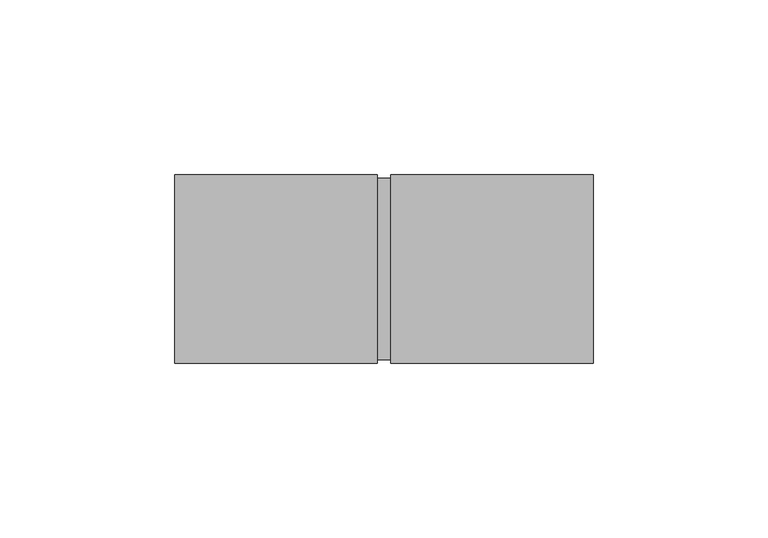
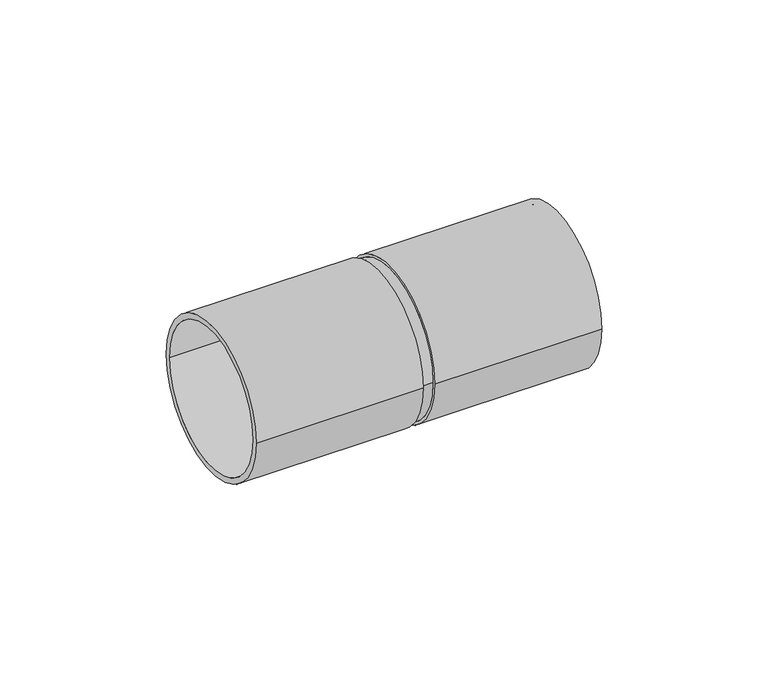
"""IFC4 building model written with IfcOpenShell, lengths in millimetres: cable carrier fitting geometry."""

from ifc_helpers import new_model, si_unit, frame, origin, place, context, project, spatial, polyline, circle_curve, source, transform, mapped, element, save
from ifc_brep_helpers import plane_surface, cylinder_surface, revolved_surface, advanced_brep


def cable_carrier_fitting_d59ab6b8(model_context):
    return source(origin(), model_context, "Body", "AdvancedBrep", [
        advanced_brep(
        [(-60.0, -27.0, 0.0), (-60.0, 27.0, 0.0), (-60.0, -25.0, 0.0), (-60.0, 25.0, 0.0), (-2.0, -27.0, 0.0), (-2.0, 27.0, 0.0), (-2.0, -26.0, 0.0), (-2.0, 26.0, 0.0), (-2.0, 25.0, 0.0), (-2.0, -25.0, 0.0), (2.0, -25.0, 0.0), (2.0, 25.0, 0.0), (2.0, -26.0, 0.0), (2.0, 26.0, 0.0), (2.0, -27.0, 0.0), (2.0, 27.0, 0.0), (60.0, -27.0, 0.0), (60.0, 27.0, 0.0), (60.0, -25.0, 0.0), (60.0, 25.0, 0.0)],
        [
            (0, 1, circle_curve(frame((-60.0, 0.0, 0.0), z_axis=(-1.0, 0.0, 0.0), x_axis=(0.0, 1.0, 0.0)), 27.0)),
            (1, 0, circle_curve(frame((-60.0, 0.0, 0.0), z_axis=(-1.0, 0.0, 0.0), x_axis=(0.0, 1.0, 0.0)), 27.0)),
            (2, 3, circle_curve(frame((-60.0, 0.0, 0.0), z_axis=(1.0, 0.0, 0.0), x_axis=(0.0, 1.0, 0.0)), 25.0)),
            (3, 2, circle_curve(frame((-60.0, 0.0, 0.0), z_axis=(1.0, 0.0, 0.0), x_axis=(0.0, 1.0, 0.0)), 25.0)),
            (4, 5, circle_curve(frame((-2.0, 0.0, 0.0), z_axis=(1.0, 0.0, 0.0), x_axis=(0.0, 1.0, 0.0)), 27.0)),
            (5, 4, circle_curve(frame((-2.0, 0.0, 0.0), z_axis=(1.0, 0.0, 0.0), x_axis=(0.0, 1.0, 0.0)), 27.0)),
            (6, 7, circle_curve(frame((-2.0, 0.0, 0.0), z_axis=(-1.0, 0.0, 0.0), x_axis=(0.0, 1.0, 0.0)), 26.0)),
            (7, 6, circle_curve(frame((-2.0, 0.0, 0.0), z_axis=(-1.0, 0.0, 0.0), x_axis=(0.0, 1.0, 0.0)), 26.0)),
            (3, 8),
            (8, 9, circle_curve(frame((-2.0, 0.0, 0.0), z_axis=(1.0, 0.0, 0.0), x_axis=(0.0, 1.0, 0.0)), 25.0)),
            (9, 2),
            (9, 8, circle_curve(frame((-2.0, 0.0, 0.0), z_axis=(1.0, 0.0, 0.0), x_axis=(0.0, 1.0, 0.0)), 25.0)),
            (1, 5),
            (4, 0),
            (9, 10),
            (10, 11, circle_curve(frame((2.0, 0.0, 0.0), z_axis=(1.0, 0.0, 0.0), x_axis=(0.0, 1.0, 0.0)), 25.0)),
            (11, 8),
            (11, 10, circle_curve(frame((2.0, 0.0, 0.0), z_axis=(1.0, 0.0, 0.0), x_axis=(0.0, 1.0, 0.0)), 25.0)),
            (6, 12),
            (12, 13, circle_curve(frame((2.0, 0.0, 0.0), z_axis=(-1.0, 0.0, 0.0), x_axis=(0.0, 1.0, 0.0)), 26.0)),
            (13, 7),
            (13, 12, circle_curve(frame((2.0, 0.0, 0.0), z_axis=(-1.0, 0.0, 0.0), x_axis=(0.0, 1.0, 0.0)), 26.0)),
            (14, 15, circle_curve(frame((2.0, 0.0, 0.0), z_axis=(-1.0, 0.0, 0.0), x_axis=(0.0, 1.0, 0.0)), 27.0)),
            (15, 14, circle_curve(frame((2.0, 0.0, 0.0), z_axis=(-1.0, 0.0, 0.0), x_axis=(0.0, 1.0, 0.0)), 27.0)),
            (16, 17, circle_curve(frame((60.0, 0.0, 0.0), z_axis=(1.0, 0.0, 0.0), x_axis=(0.0, 1.0, 0.0)), 27.0)),
            (17, 16, circle_curve(frame((60.0, 0.0, 0.0), z_axis=(1.0, 0.0, 0.0), x_axis=(0.0, 1.0, 0.0)), 27.0)),
            (18, 19, circle_curve(frame((60.0, 0.0, 0.0), z_axis=(-1.0, 0.0, 0.0), x_axis=(0.0, 1.0, 0.0)), 25.0)),
            (19, 18, circle_curve(frame((60.0, 0.0, 0.0), z_axis=(-1.0, 0.0, 0.0), x_axis=(0.0, 1.0, 0.0)), 25.0)),
            (14, 16),
            (17, 15),
            (19, 11),
            (10, 18),
        ],
        [
            plane_surface(frame((-60.0, 0.0, 0.0), z_axis=(-1.0, 0.0, 0.0), x_axis=(0.0, 0.0, 1.0))),
            plane_surface(frame((-2.0, 0.0, 0.0), z_axis=(1.0, 0.0, 0.0), x_axis=(0.0, 0.0, 1.0))),
            revolved_surface(polyline([(-2.0, 25.0, 0.0), (-60.0, 25.0, 0.0)]), (-60.0, 0.0, 0.0), (1.0, 0.0, 0.0)),
            cylinder_surface(frame((-60.0, 0.0, 0.0), z_axis=(-1.0, 0.0, 0.0), x_axis=(0.0, 1.0, 0.0)), 27.0),
            revolved_surface(polyline([(2.0, 25.0, 0.0), (-2.0, 25.0, 0.0)]), (-2.0, 0.0, 0.0), (1.0, 0.0, 0.0)),
            cylinder_surface(frame((-2.0, 0.0, 0.0), z_axis=(-1.0, 0.0, 0.0), x_axis=(0.0, 1.0, 0.0)), 26.0),
            plane_surface(frame((2.0, 0.0, 0.0), z_axis=(-1.0, 0.0, 0.0), x_axis=(0.0, 0.0, 1.0))),
            plane_surface(frame((60.0, 0.0, 0.0), z_axis=(1.0, 0.0, 0.0), x_axis=(0.0, 0.0, 1.0))),
            cylinder_surface(frame((2.0, 0.0, 0.0), z_axis=(-1.0, 0.0, 0.0), x_axis=(0.0, 1.0, 0.0)), 27.0),
            revolved_surface(polyline([(60.0, 25.0, 0.0), (2.0, 25.0, 0.0)]), (2.0, 0.0, 0.0), (1.0, 0.0, 0.0)),
        ],
        [
            (0, [[1, 2], [3, 4]]),
            (1, [[5, 6], [7, 8]]),
            (2, [[-4, 9, 10, 11]]),
            (2, [[-3, -11, 12, -9]]),
            (3, [[-2, 13, -5, 14]]),
            (3, [[-1, -14, -6, -13]]),
            (4, [[15, 16, 17, -12]]),
            (4, [[-15, -10, -17, 18]]),
            (5, [[19, 20, 21, -7]]),
            (5, [[-19, -8, -21, 22]]),
            (6, [[23, 24], [-20, -22]]),
            (7, [[25, 26], [27, 28]]),
            (8, [[-23, 29, -26, 30]]),
            (8, [[-24, -30, -25, -29]]),
            (9, [[-28, 31, -16, 32]]),
            (9, [[-27, -32, -18, -31]]),
        ],
    ),
    ])


if __name__ == "__main__":
    model = new_model("IFC4")
    model_context = context("Model", 3, world=origin())
    ifc_project = project(units=[si_unit("LENGTHUNIT", "METRE", prefix="MILLI")], contexts=[model_context])
    site = spatial("IfcSite", under=ifc_project)
    building = spatial("IfcBuilding", under=site)
    placement = place(None, origin())
    cable_carrier_fitting_shape = cable_carrier_fitting_d59ab6b8(model_context)
    element("IfcCableCarrierFitting", 1, at=placement, inside=building, context=model_context, shape_type="MappedRepresentation", body=[
        mapped(cable_carrier_fitting_shape, transform((0.0, 0.0, 0.0), x_axis=(1.0, 0.0, 0.0), y_axis=(0.0, 1.0, 0.0), z_axis=(0.0, 0.0, 1.0))),
    ])
    save(model, "model.ifc")
